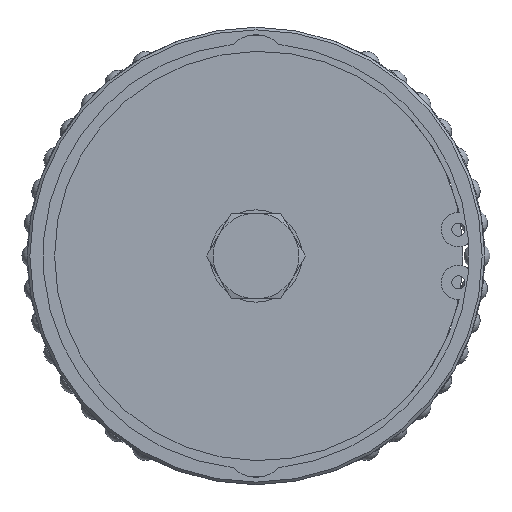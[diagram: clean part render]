
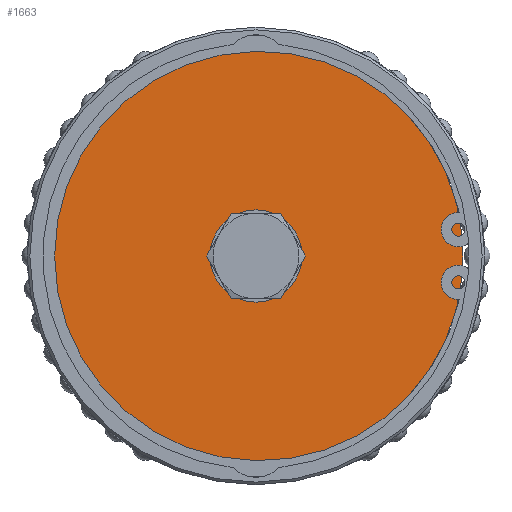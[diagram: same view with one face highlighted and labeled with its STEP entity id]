
A CAD part, left-side view. The second image highlights one B-rep face of the part: STEP entity #1663.
In plain terms, the highlighted planar face has unit normal (-1, 0, 0).
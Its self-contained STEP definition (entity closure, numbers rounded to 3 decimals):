
#229=FACE_BOUND('',#529,.T.);
#243=PLANE('',#1850);
#347=FACE_OUTER_BOUND('',#528,.T.);
#528=EDGE_LOOP('',(#1319,#1320,#1321,#1322));
#529=EDGE_LOOP('',(#1323));
#696=CIRCLE('',#1837,6.);
#697=CIRCLE('',#1839,4.9);
#699=CIRCLE('',#1842,31.45);
#701=CIRCLE('',#1845,4.9);
#703=CIRCLE('',#1848,31.45);
#823=VERTEX_POINT('',#4835);
#824=VERTEX_POINT('',#4839);
#825=VERTEX_POINT('',#4840);
#828=VERTEX_POINT('',#4848);
#830=VERTEX_POINT('',#4854);
#990=EDGE_CURVE('',#823,#823,#696,.T.);
#991=EDGE_CURVE('',#824,#825,#697,.T.);
#995=EDGE_CURVE('',#825,#828,#699,.T.);
#998=EDGE_CURVE('',#828,#830,#701,.T.);
#1001=EDGE_CURVE('',#830,#824,#703,.T.);
#1319=ORIENTED_EDGE('',*,*,#1001,.T.);
#1320=ORIENTED_EDGE('',*,*,#991,.T.);
#1321=ORIENTED_EDGE('',*,*,#995,.T.);
#1322=ORIENTED_EDGE('',*,*,#998,.T.);
#1323=ORIENTED_EDGE('',*,*,#990,.T.);
#1663=ADVANCED_FACE('',(#347,#229),#243,.T.);
#1837=AXIS2_PLACEMENT_3D('',#4837,#2164,#2165);
#1839=AXIS2_PLACEMENT_3D('',#4841,#2168,#2169);
#1842=AXIS2_PLACEMENT_3D('',#4849,#2176,#2177);
#1845=AXIS2_PLACEMENT_3D('',#4855,#2183,#2184);
#1848=AXIS2_PLACEMENT_3D('',#4860,#2190,#2191);
#1850=AXIS2_PLACEMENT_3D('',#4862,#2194,#2195);
#2164=DIRECTION('center_axis',(1.,0.,0.));
#2165=DIRECTION('ref_axis',(0.,0.,-1.));
#2168=DIRECTION('center_axis',(-1.,0.,0.));
#2169=DIRECTION('ref_axis',(0.,-0.858,0.514));
#2176=DIRECTION('center_axis',(-1.,0.,0.));
#2177=DIRECTION('ref_axis',(0.,0.134,0.991));
#2183=DIRECTION('center_axis',(-1.,0.,0.));
#2184=DIRECTION('ref_axis',(0.,0.858,-0.514));
#2190=DIRECTION('center_axis',(-1.,0.,0.));
#2191=DIRECTION('ref_axis',(0.,-0.134,-0.991));
#2194=DIRECTION('center_axis',(-1.,0.,0.));
#2195=DIRECTION('ref_axis',(0.,0.,1.));
#4835=CARTESIAN_POINT('',(40.,0.,6.));
#4837=CARTESIAN_POINT('Origin',(40.,0.,0.));
#4839=CARTESIAN_POINT('',(40.,-4.204,31.168));
#4840=CARTESIAN_POINT('',(40.,4.204,31.168));
#4841=CARTESIAN_POINT('Origin',(40.,0.,28.65));
#4848=CARTESIAN_POINT('',(40.,4.204,-31.168));
#4849=CARTESIAN_POINT('Origin',(40.,0.,0.));
#4854=CARTESIAN_POINT('',(40.,-4.204,-31.168));
#4855=CARTESIAN_POINT('Origin',(40.,0.,-28.65));
#4860=CARTESIAN_POINT('Origin',(40.,0.,0.));
#4862=CARTESIAN_POINT('Origin',(40.,0.,0.));
